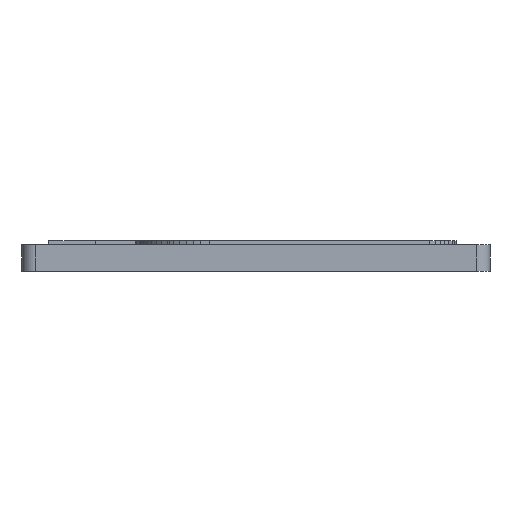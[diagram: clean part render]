
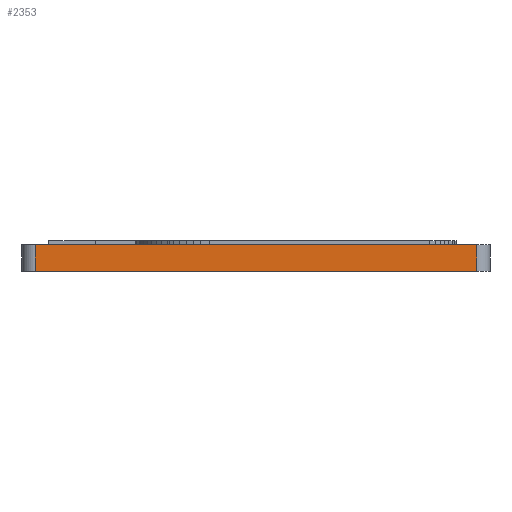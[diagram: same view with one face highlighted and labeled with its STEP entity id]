
A CAD part, left-side view. The second image highlights one B-rep face of the part: STEP entity #2353.
In plain terms, the highlighted planar face has unit normal (-1, 0, 0).
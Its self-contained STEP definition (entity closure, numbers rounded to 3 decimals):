
#66 = PLANE('',#67);
#67 = AXIS2_PLACEMENT_3D('',#68,#69,#70);
#68 = CARTESIAN_POINT('',(49.061,34.324,0.));
#69 = DIRECTION('',(-0.,-0.,-1.));
#70 = DIRECTION('',(-1.,0.,0.));
#122 = PLANE('',#123);
#123 = AXIS2_PLACEMENT_3D('',#124,#125,#126);
#124 = CARTESIAN_POINT('',(49.061,34.324,4.));
#125 = DIRECTION('',(-0.,-0.,-1.));
#126 = DIRECTION('',(-1.,0.,0.));
#148 = CYLINDRICAL_SURFACE('',#149,2.);
#149 = AXIS2_PLACEMENT_3D('',#150,#151,#152);
#150 = CARTESIAN_POINT('',(2.,2.,0.));
#151 = DIRECTION('',(0.,0.,1.));
#152 = DIRECTION('',(0.,-1.,0.));
#165 = VERTEX_POINT('',#166);
#166 = CARTESIAN_POINT('',(0.,2.,0.));
#188 = EDGE_CURVE('',#165,#189,#191,.T.);
#189 = VERTEX_POINT('',#190);
#190 = CARTESIAN_POINT('',(0.,68.,0.));
#191 = SURFACE_CURVE('',#192,(#196,#203),.PCURVE_S1.);
#192 = LINE('',#193,#194);
#193 = CARTESIAN_POINT('',(0.,0.,0.));
#194 = VECTOR('',#195,1.);
#195 = DIRECTION('',(0.,1.,0.));
#196 = PCURVE('',#66,#197);
#197 = DEFINITIONAL_REPRESENTATION('',(#198),#202);
#198 = LINE('',#199,#200);
#199 = CARTESIAN_POINT('',(49.061,-34.324));
#200 = VECTOR('',#201,1.);
#201 = DIRECTION('',(0.,1.));
#202 = ( GEOMETRIC_REPRESENTATION_CONTEXT(2) 
PARAMETRIC_REPRESENTATION_CONTEXT() REPRESENTATION_CONTEXT('2D SPACE',''
  ) );
#203 = PCURVE('',#204,#209);
#204 = PLANE('',#205);
#205 = AXIS2_PLACEMENT_3D('',#206,#207,#208);
#206 = CARTESIAN_POINT('',(0.,0.,0.));
#207 = DIRECTION('',(-1.,0.,0.));
#208 = DIRECTION('',(0.,1.,0.));
#209 = DEFINITIONAL_REPRESENTATION('',(#210),#214);
#210 = LINE('',#211,#212);
#211 = CARTESIAN_POINT('',(0.,0.));
#212 = VECTOR('',#213,1.);
#213 = DIRECTION('',(1.,0.));
#214 = ( GEOMETRIC_REPRESENTATION_CONTEXT(2) 
PARAMETRIC_REPRESENTATION_CONTEXT() REPRESENTATION_CONTEXT('2D SPACE',''
  ) );
#233 = CYLINDRICAL_SURFACE('',#234,2.);
#234 = AXIS2_PLACEMENT_3D('',#235,#236,#237);
#235 = CARTESIAN_POINT('',(2.,68.,0.));
#236 = DIRECTION('',(0.,0.,1.));
#237 = DIRECTION('',(-1.,0.,0.));
#471 = EDGE_CURVE('',#165,#472,#474,.T.);
#472 = VERTEX_POINT('',#473);
#473 = CARTESIAN_POINT('',(0.,2.,4.));
#474 = SURFACE_CURVE('',#475,(#479,#486),.PCURVE_S1.);
#475 = LINE('',#476,#477);
#476 = CARTESIAN_POINT('',(0.,2.,0.));
#477 = VECTOR('',#478,1.);
#478 = DIRECTION('',(0.,0.,1.));
#479 = PCURVE('',#148,#480);
#480 = DEFINITIONAL_REPRESENTATION('',(#481),#485);
#481 = LINE('',#482,#483);
#482 = CARTESIAN_POINT('',(-1.571,0.));
#483 = VECTOR('',#484,1.);
#484 = DIRECTION('',(-0.,1.));
#485 = ( GEOMETRIC_REPRESENTATION_CONTEXT(2) 
PARAMETRIC_REPRESENTATION_CONTEXT() REPRESENTATION_CONTEXT('2D SPACE',''
  ) );
#486 = PCURVE('',#204,#487);
#487 = DEFINITIONAL_REPRESENTATION('',(#488),#492);
#488 = LINE('',#489,#490);
#489 = CARTESIAN_POINT('',(2.,0.));
#490 = VECTOR('',#491,1.);
#491 = DIRECTION('',(0.,-1.));
#492 = ( GEOMETRIC_REPRESENTATION_CONTEXT(2) 
PARAMETRIC_REPRESENTATION_CONTEXT() REPRESENTATION_CONTEXT('2D SPACE',''
  ) );
#522 = EDGE_CURVE('',#472,#523,#525,.T.);
#523 = VERTEX_POINT('',#524);
#524 = CARTESIAN_POINT('',(0.,68.,4.));
#525 = SURFACE_CURVE('',#526,(#530,#537),.PCURVE_S1.);
#526 = LINE('',#527,#528);
#527 = CARTESIAN_POINT('',(0.,0.,4.));
#528 = VECTOR('',#529,1.);
#529 = DIRECTION('',(0.,1.,0.));
#530 = PCURVE('',#122,#531);
#531 = DEFINITIONAL_REPRESENTATION('',(#532),#536);
#532 = LINE('',#533,#534);
#533 = CARTESIAN_POINT('',(49.061,-34.324));
#534 = VECTOR('',#535,1.);
#535 = DIRECTION('',(0.,1.));
#536 = ( GEOMETRIC_REPRESENTATION_CONTEXT(2) 
PARAMETRIC_REPRESENTATION_CONTEXT() REPRESENTATION_CONTEXT('2D SPACE',''
  ) );
#537 = PCURVE('',#204,#538);
#538 = DEFINITIONAL_REPRESENTATION('',(#539),#543);
#539 = LINE('',#540,#541);
#540 = CARTESIAN_POINT('',(0.,-4.));
#541 = VECTOR('',#542,1.);
#542 = DIRECTION('',(1.,0.));
#543 = ( GEOMETRIC_REPRESENTATION_CONTEXT(2) 
PARAMETRIC_REPRESENTATION_CONTEXT() REPRESENTATION_CONTEXT('2D SPACE',''
  ) );
#2353 = ADVANCED_FACE('',(#2354),#204,.T.);
#2354 = FACE_BOUND('',#2355,.T.);
#2355 = EDGE_LOOP('',(#2356,#2357,#2358,#2359));
#2356 = ORIENTED_EDGE('',*,*,#188,.F.);
#2357 = ORIENTED_EDGE('',*,*,#471,.T.);
#2358 = ORIENTED_EDGE('',*,*,#522,.T.);
#2359 = ORIENTED_EDGE('',*,*,#2360,.F.);
#2360 = EDGE_CURVE('',#189,#523,#2361,.T.);
#2361 = SURFACE_CURVE('',#2362,(#2366,#2373),.PCURVE_S1.);
#2362 = LINE('',#2363,#2364);
#2363 = CARTESIAN_POINT('',(0.,68.,0.));
#2364 = VECTOR('',#2365,1.);
#2365 = DIRECTION('',(0.,0.,1.));
#2366 = PCURVE('',#204,#2367);
#2367 = DEFINITIONAL_REPRESENTATION('',(#2368),#2372);
#2368 = LINE('',#2369,#2370);
#2369 = CARTESIAN_POINT('',(68.,0.));
#2370 = VECTOR('',#2371,1.);
#2371 = DIRECTION('',(0.,-1.));
#2372 = ( GEOMETRIC_REPRESENTATION_CONTEXT(2) 
PARAMETRIC_REPRESENTATION_CONTEXT() REPRESENTATION_CONTEXT('2D SPACE',''
  ) );
#2373 = PCURVE('',#233,#2374);
#2374 = DEFINITIONAL_REPRESENTATION('',(#2375),#2379);
#2375 = LINE('',#2376,#2377);
#2376 = CARTESIAN_POINT('',(-0.,0.));
#2377 = VECTOR('',#2378,1.);
#2378 = DIRECTION('',(-0.,1.));
#2379 = ( GEOMETRIC_REPRESENTATION_CONTEXT(2) 
PARAMETRIC_REPRESENTATION_CONTEXT() REPRESENTATION_CONTEXT('2D SPACE',''
  ) );
